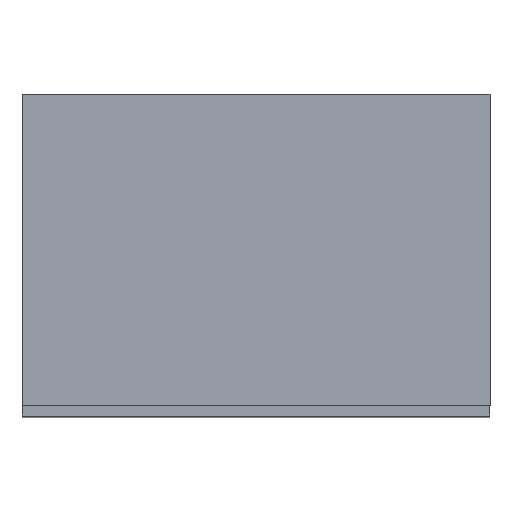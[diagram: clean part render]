
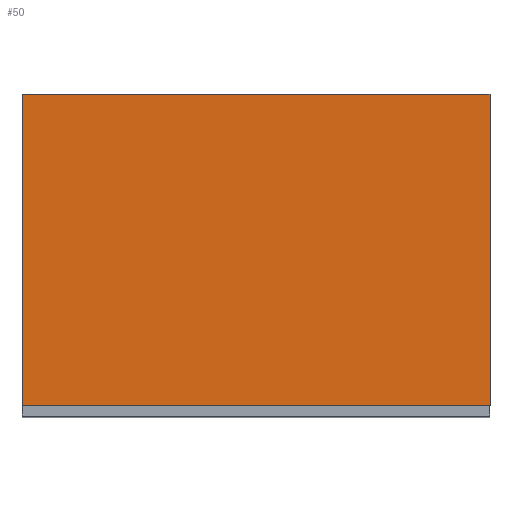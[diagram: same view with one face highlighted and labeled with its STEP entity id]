
A CAD part, top view. The second image highlights one B-rep face of the part: STEP entity #50.
In plain terms, the highlighted planar face has unit normal (0, 0, 1).
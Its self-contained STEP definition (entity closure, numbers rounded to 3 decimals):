
#50=ADVANCED_FACE('',(#70),#306,.T.);
#70=FACE_OUTER_BOUND('',#90,.T.);
#90=EDGE_LOOP('',(#122,#123,#124,#125));
#122=ORIENTED_EDGE('',*,*,#190,.F.);
#123=ORIENTED_EDGE('',*,*,#194,.F.);
#124=ORIENTED_EDGE('',*,*,#197,.F.);
#125=ORIENTED_EDGE('',*,*,#200,.F.);
#190=EDGE_CURVE('',#274,#275,#232,.T.);
#194=EDGE_CURVE('',#278,#274,#236,.T.);
#197=EDGE_CURVE('',#280,#278,#239,.T.);
#200=EDGE_CURVE('',#275,#280,#242,.T.);
#232=B_SPLINE_CURVE_WITH_KNOTS('',1,(#402,#403),.UNSPECIFIED.,.F.,.F.,(2,
2),(-2.91,0.),.UNSPECIFIED.);
#236=B_SPLINE_CURVE_WITH_KNOTS('',1,(#410,#411),.UNSPECIFIED.,.F.,.F.,(2,
2),(-1.936,0.),.UNSPECIFIED.);
#239=B_SPLINE_CURVE_WITH_KNOTS('',1,(#416,#417),.UNSPECIFIED.,.F.,.F.,(2,
2),(-2.91,0.),.UNSPECIFIED.);
#242=B_SPLINE_CURVE_WITH_KNOTS('',1,(#422,#423),.UNSPECIFIED.,.F.,.F.,(2,
2),(-1.936,0.),.UNSPECIFIED.);
#274=VERTEX_POINT('',#394);
#275=VERTEX_POINT('',#395);
#278=VERTEX_POINT('',#398);
#280=VERTEX_POINT('',#400);
#306=PLANE('',#346);
#346=AXIS2_PLACEMENT_3D('',#392,#369,$);
#369=DIRECTION('',(0.,0.,1.));
#392=CARTESIAN_POINT('',(443.51,638.01,2050.));
#394=CARTESIAN_POINT('',(-443.5,638.,2050.));
#395=CARTESIAN_POINT('',(443.5,638.,2050.));
#398=CARTESIAN_POINT('',(-443.5,48.,2050.));
#400=CARTESIAN_POINT('',(443.5,48.,2050.));
#402=CARTESIAN_POINT('',(-443.5,638.,2050.));
#403=CARTESIAN_POINT('',(443.5,638.,2050.));
#410=CARTESIAN_POINT('',(-443.5,48.,2050.));
#411=CARTESIAN_POINT('',(-443.5,638.,2050.));
#416=CARTESIAN_POINT('',(443.5,48.,2050.));
#417=CARTESIAN_POINT('',(-443.5,48.,2050.));
#422=CARTESIAN_POINT('',(443.5,638.,2050.));
#423=CARTESIAN_POINT('',(443.5,48.,2050.));
